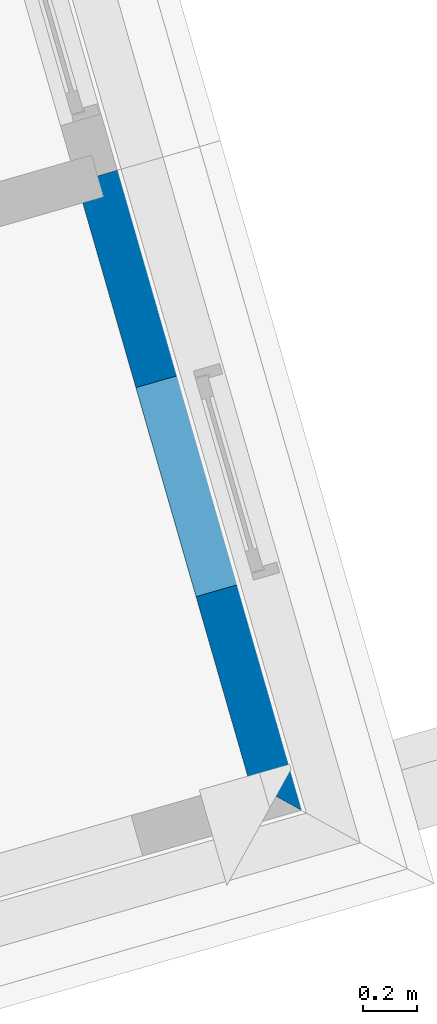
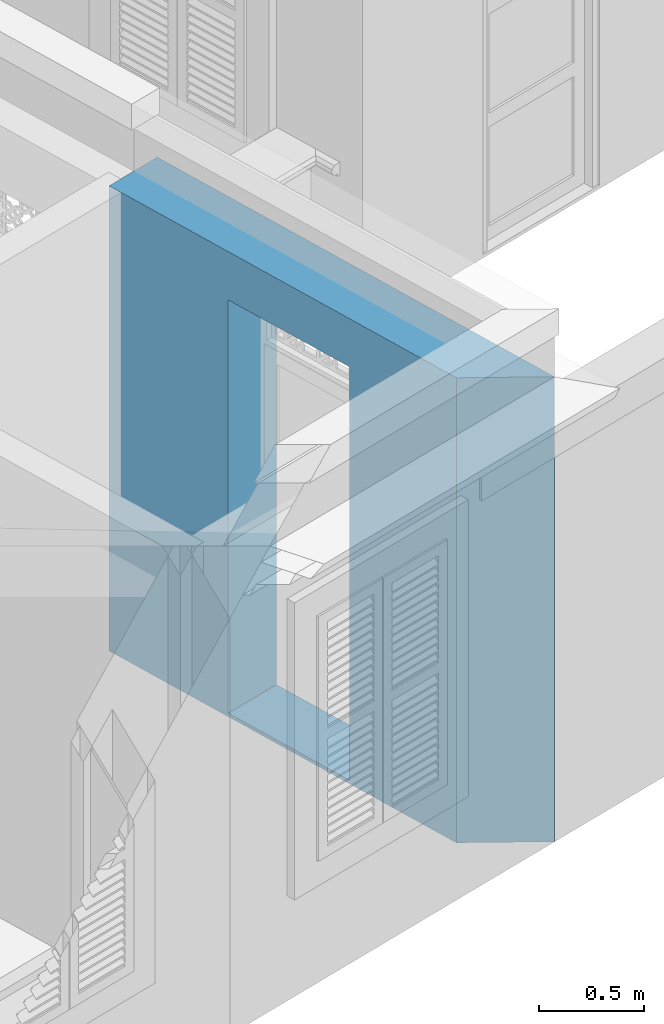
# One storey, part 5 of 22: 1 wall, 1 opening.
"""IFC4 building model written with IfcOpenShell, lengths in metres."""

from ifc_helpers import new_model, si_unit, frame, origin_with_axes, place, context, subcontext, project, spatial, polyline, outline, extrude, material, layer, layer_set, layer_usage, type_object, element, save


model = new_model("IFC4")

# Units and contexts
model_context = context("Model", 3, world=origin_with_axes())
body_context = subcontext(model_context, "Body", "Model", "MODEL_VIEW")
ifc_project = project(units=[si_unit("PLANEANGLEUNIT", "RADIAN"), si_unit("MASSUNIT", "GRAM", prefix="KILO"), si_unit("FORCEUNIT", "NEWTON", prefix="KILO"), si_unit("LENGTHUNIT", "METRE"), si_unit("AREAUNIT", "SQUARE_METRE"), si_unit("VOLUMEUNIT", "CUBIC_METRE")], contexts=[model_context, model_context])

# Site, building, storey
site_placement = place(None, origin_with_axes())
site = spatial("IfcSite", under=ifc_project, at=site_placement, Name="Site plot-9", CompositionType="ELEMENT")
building_placement = place(None, origin_with_axes())
building = spatial("IfcBuilding", under=site, at=building_placement, Name="Building plot-9", CompositionType="ELEMENT")
storey_placement = place(None, frame((0.0, 0.0, 2.85), z_axis=(0.0, 0.0, 1.0), x_axis=(1.0, 0.0, 0.0)))
storey = spatial("IfcBuildingStorey", under=building, at=storey_placement, Name="plot-9 1", CompositionType="ELEMENT", Elevation=2.85)

# Wall, opening
ifc_material = material(Name="Masonry")
ifc_layer = layer(ifc_material, 0.33, ventilated=False)
ifc_layer_set = layer_set([ifc_layer], Name="exterior_0.08_0.25")
ifc_layer_usage = layer_usage(ifc_layer_set, "AXIS2", "POSITIVE", -0.25)
wall_type = type_object("IfcWallType", Name="exterior_0.08_0.25", PredefinedType="SOLIDWALL", material=ifc_layer_set)
wall_placement = place(storey_placement, frame((-16.0944821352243, -5.59702537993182, 0.0), z_axis=(0.0, 0.0, 1.0), x_axis=(-0.276523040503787, 0.96100728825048, 0.0)))
wall = element("IfcWall", 1, at=wall_placement, inside=storey, type_object=wall_type, material=ifc_layer_usage, Name="exterior", context=body_context, shape_type="SweptSolid", body=[
    extrude(outline(polyline([(0.0800000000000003, 0.0799999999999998), (-0.250000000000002, -0.25), (2.37392456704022, -0.250000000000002), (2.37392456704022, 0.0800000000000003), (0.0800000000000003, 0.0799999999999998)])), origin_with_axes(), (0.0, 0.0, 1.0), 2.7),
])
opening_placement = place(wall_placement, frame((0.786962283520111, 0.0, 0.02)))
element("IfcOpeningElement", 2, at=opening_placement, cuts=wall, Name="My Opening", ObjectType="Opening", context=body_context, shape_type="SweptSolid", body=[
    extrude(outline(polyline([(0.0, -0.27), (0.800000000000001, -0.269999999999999), (0.800000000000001, 1.1), (-2.22044604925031e-16, 1.1), (0.0, -0.27)])), origin_with_axes(), (0.0, 0.0, 1.0), 2.4),
])

save(model, "model.ifc")
